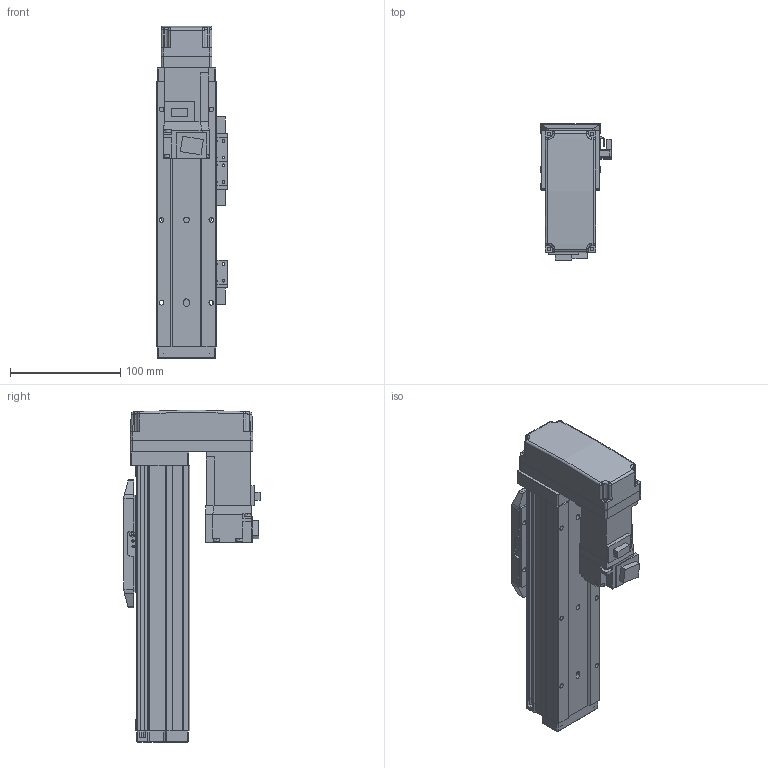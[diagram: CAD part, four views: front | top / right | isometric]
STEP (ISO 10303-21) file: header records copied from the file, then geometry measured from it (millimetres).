
FILE_DESCRIPTION (( 'STEP AP214' ), '1' );
FILE_NAME ('N_GRH5-100-BM-M10.step', '2025-03-14T10:50:32', ( '' ), ( '' ), 'SwSTEP 2.0', 'SolidWorks 2016', '' );
FILE_SCHEMA (( 'AUTOMOTIVE_DESIGN' ));
Length unit declared in the file: millimetre
Products named in the file (5): N_GRH5-100-BM-M10; N_GRH5-GY-004^N_GRH5-100-BM-M10; N_GRH5-BL-008^N_GRH5-100-BM-M10; N_GRH5-GY-011^N_GRH5-100-BM-M10; HF-KP13_100W_Motor^N_GRH5-100-BM-M10
Assembly tree (4 placements, depth 2):
  N_GRH5-100-BM-M10
    N_GRH5-GY-011^N_GRH5-100-BM-M10
    N_GRH5-GY-004^N_GRH5-100-BM-M10
    HF-KP13_100W_Motor^N_GRH5-100-BM-M10
    N_GRH5-BL-008^N_GRH5-100-BM-M10
Bounding box: 64.05 x 123.7 x 300.5 mm (x, y, z)
Volume: 843862.4 mm3; surface area: 191845.8 mm2
Topology: 4 solids, 5 shells, 914 faces, 2336 edges, 1477 vertices
Faces by surface type: plane 543, cylinder 296, cone 50, bspline 15, sphere 10
Entity records: 34883 total; most frequent: CARTESIAN_POINT 5493, DIRECTION 4685, ORIENTED_EDGE 4608, EDGE_CURVE 2304, VECTOR 1619, LINE 1619, AXIS2_PLACEMENT_3D 1533, VERTEX_POINT 1475
